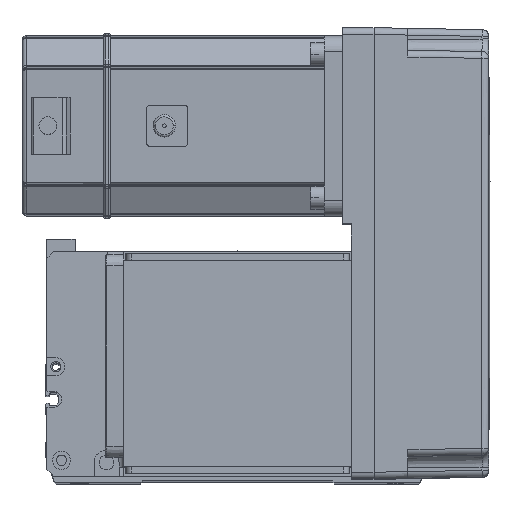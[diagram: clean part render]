
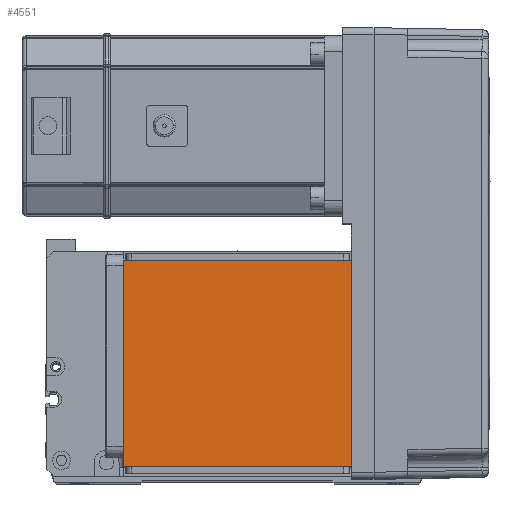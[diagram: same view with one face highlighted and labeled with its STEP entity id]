
A CAD part, top view. The second image highlights one B-rep face of the part: STEP entity #4551.
In plain terms, the highlighted planar face has unit normal (0, 0, 1).
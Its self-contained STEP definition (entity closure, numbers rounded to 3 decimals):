
#1214 = EDGE_CURVE ( 'NONE', #53707, #53782, #3882, .T. ) ;
#1582 = CARTESIAN_POINT ( 'NONE',  ( 0., 0., 115. ) ) ;
#2136 = PLANE ( 'NONE',  #52299 ) ;
#2305 = CARTESIAN_POINT ( 'NONE',  ( -70.004, 111.5, 115. ) ) ;
#3882 = LINE ( 'NONE', #52488, #39452 ) ;
#4551 = ADVANCED_FACE ( 'NONE', ( #40800 ), #2136, .T. ) ;
#5183 = DIRECTION ( 'NONE',  ( -1., 0., 0. ) ) ;
#7224 = DIRECTION ( 'NONE',  ( 1., 0., 0. ) ) ;
#10545 = CARTESIAN_POINT ( 'NONE',  ( -50.5, 122., 115. ) ) ;
#14572 = EDGE_CURVE ( 'NONE', #53707, #39580, #25574, .T. ) ;
#15161 = DIRECTION ( 'NONE',  ( 1., 0., 0. ) ) ;
#15483 = VECTOR ( 'NONE', #23596, 1000. ) ;
#15592 = EDGE_LOOP ( 'NONE', ( #53715, #34273, #40097, #27842 ) ) ;
#22874 = VECTOR ( 'NONE', #40649, 1000. ) ;
#22900 = LINE ( 'NONE', #2305, #36921 ) ;
#23596 = DIRECTION ( 'NONE',  ( 0., -1., 0. ) ) ;
#25574 = LINE ( 'NONE', #31531, #22874 ) ;
#27842 = ORIENTED_EDGE ( 'NONE', *, *, #14572, .T. ) ;
#28125 = CARTESIAN_POINT ( 'NONE',  ( -50.5, 20., 115. ) ) ;
#30965 = LINE ( 'NONE', #10545, #15483 ) ;
#31531 = CARTESIAN_POINT ( 'NONE',  ( 50.5, 122., 115. ) ) ;
#34273 = ORIENTED_EDGE ( 'NONE', *, *, #43840, .T. ) ;
#36921 = VECTOR ( 'NONE', #7224, 1000. ) ;
#37206 = VERTEX_POINT ( 'NONE', #48733 ) ;
#38265 = EDGE_CURVE ( 'NONE', #37206, #39580, #22900, .T. ) ;
#39452 = VECTOR ( 'NONE', #5183, 1000. ) ;
#39580 = VERTEX_POINT ( 'NONE', #47691 ) ;
#40097 = ORIENTED_EDGE ( 'NONE', *, *, #1214, .F. ) ;
#40649 = DIRECTION ( 'NONE',  ( 0., 1., 0. ) ) ;
#40800 = FACE_OUTER_BOUND ( 'NONE', #15592, .T. ) ;
#43840 = EDGE_CURVE ( 'NONE', #37206, #53782, #30965, .T. ) ;
#47691 = CARTESIAN_POINT ( 'NONE',  ( 50.5, 111.5, 115. ) ) ;
#48733 = CARTESIAN_POINT ( 'NONE',  ( -50.5, 111.5, 115. ) ) ;
#52299 = AXIS2_PLACEMENT_3D ( 'NONE', #1582, #53796, #15161 ) ;
#52488 = CARTESIAN_POINT ( 'NONE',  ( -70.004, 20., 115. ) ) ;
#53248 = CARTESIAN_POINT ( 'NONE',  ( 50.5, 20., 115. ) ) ;
#53707 = VERTEX_POINT ( 'NONE', #53248 ) ;
#53715 = ORIENTED_EDGE ( 'NONE', *, *, #38265, .F. ) ;
#53782 = VERTEX_POINT ( 'NONE', #28125 ) ;
#53796 = DIRECTION ( 'NONE',  ( 0., 0., 1. ) ) ;
